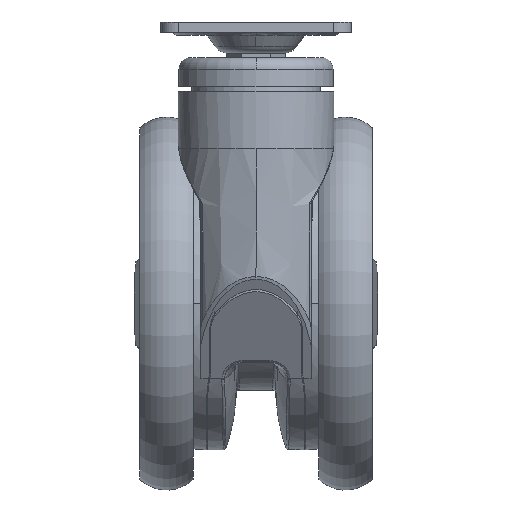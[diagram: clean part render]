
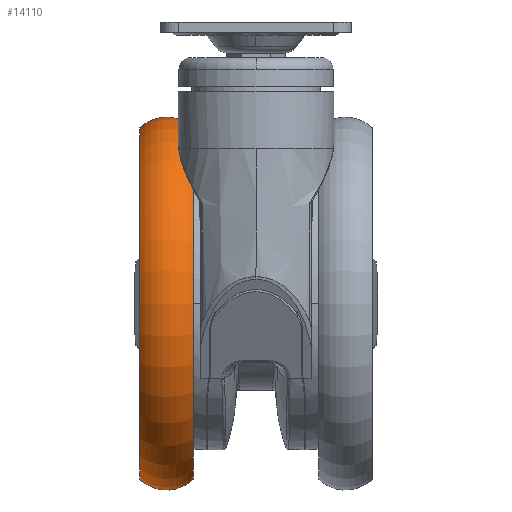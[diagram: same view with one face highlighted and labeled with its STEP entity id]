
A CAD part, left-side view. The second image highlights one B-rep face of the part: STEP entity #14110.
In plain terms, the highlighted toroidal (fillet/blend) face has major radius 49.5 mm and minor radius 13 mm.
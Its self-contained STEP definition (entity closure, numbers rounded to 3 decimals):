
#740=TOROIDAL_SURFACE('',#89088,49.5,13.);
#7447=FACE_BOUND('',#24730,.T.);
#7448=FACE_BOUND('',#24731,.T.);
#10189=CIRCLE('',#89086,58.923);
#10190=CIRCLE('',#89087,58.923);
#14110=ADVANCED_FACE('',(#7447,#7448),#740,.T.);
#24730=EDGE_LOOP('',(#46775));
#24731=EDGE_LOOP('',(#46776));
#46775=ORIENTED_EDGE('',*,*,#70398,.F.);
#46776=ORIENTED_EDGE('',*,*,#70399,.T.);
#58393=VERTEX_POINT('',#166554);
#58394=VERTEX_POINT('',#166556);
#70398=EDGE_CURVE('',#58393,#58393,#10189,.T.);
#70399=EDGE_CURVE('',#58394,#58394,#10190,.T.);
#89086=AXIS2_PLACEMENT_3D('',#166553,#106324,#106325);
#89087=AXIS2_PLACEMENT_3D('',#166555,#106326,#106327);
#89088=AXIS2_PLACEMENT_3D('',#166557,#106328,#106329);
#106324=DIRECTION('',(0.,-1.,0.));
#106325=DIRECTION('',(0.,0.,-1.));
#106326=DIRECTION('',(0.,-1.,0.));
#106327=DIRECTION('',(0.,0.,-1.));
#106328=DIRECTION('',(0.,-1.,0.));
#106329=DIRECTION('',(0.,0.,-1.));
#166553=CARTESIAN_POINT('',(37.498,21.,-94.4));
#166554=CARTESIAN_POINT('',(37.498,21.,-153.323));
#166555=CARTESIAN_POINT('',(37.498,38.911,-94.4));
#166556=CARTESIAN_POINT('',(37.498,38.911,-153.323));
#166557=CARTESIAN_POINT('',(37.498,29.955,-94.4));
